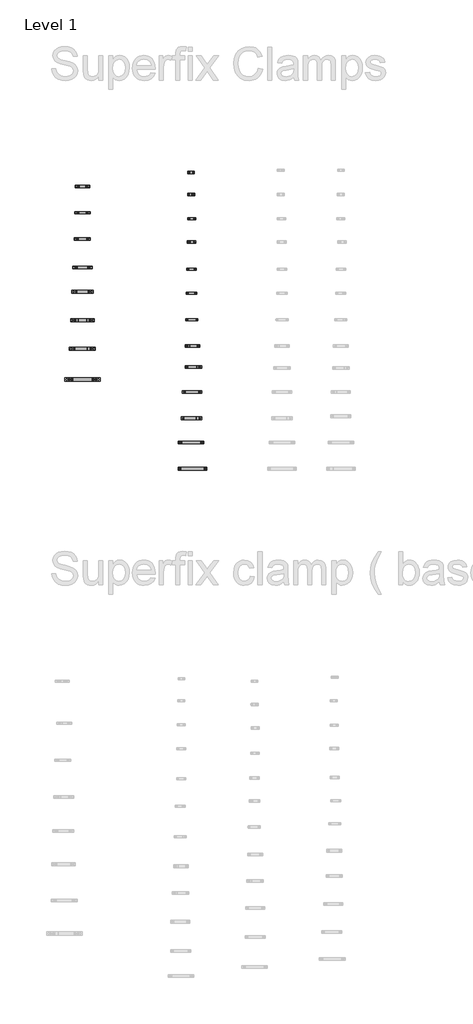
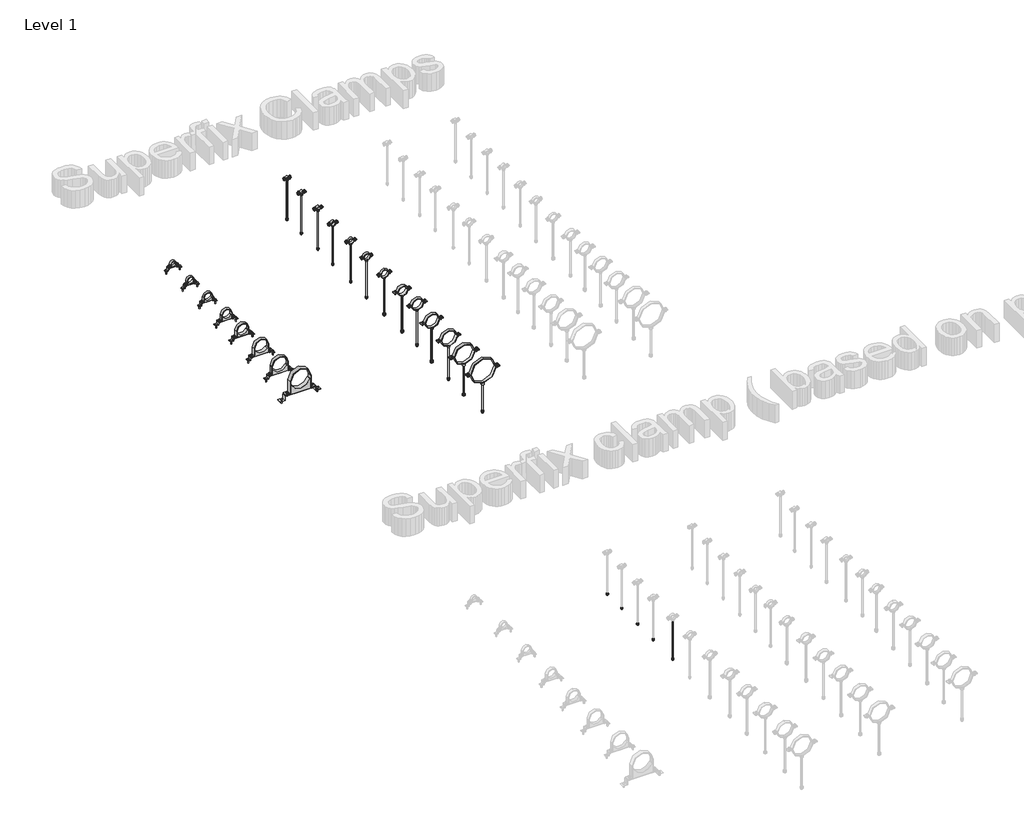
# One storey, part 2 of 32: 138 valves.
"""IFC4 building model written with IfcOpenShell, lengths in millimetres."""

from ifc_helpers import new_model, si_unit, origin, place, context, project, spatial, transform, mapped, element, save
from components import valve_5af5721a, valve_135a96ef, valve_33040f4a, valve_f80b1ea0, valve_0220e836, valve_9a4a9d4f, valve_15f5fd39, valve_c56c90fc, valve_fd664f3f, valve_c1f0a65c, valve_86aa1641, valve_9a7a2dc0, valve_91093ba9, valve_35f80758, valve_2e221add, valve_25c7dca7, valve_0a1c648b, valve_7b720bf2, valve_e633c2be, valve_71e6190d, valve_fd3ecfd8, valve_b4b668c8, valve_6ed2164d, valve_51bf7b5a, valve_dc9e7541, valve_fad8a5b8, valve_cdfc1e77, valve_54fbe6a6, valve_d78be41b, valve_1a68cbfa, valve_9da2c18c, valve_ca0dcec8, valve_44c210af, valve_c34e8304, valve_1d0ad1b5, valve_7fccb85c, valve_1a4baf8e, hexagon_nut_galvanized_extra_m10_fcef541f, hexagon_nut_galvanized_extra_m8_53389388, superfix_hexagon_screw_galvanized_e39b877e

model = new_model("IFC4")

# Units and contexts
model_context = context("Model", 3, world=origin())
ifc_project = project(units=[si_unit("LENGTHUNIT", "METRE", prefix="MILLI")], contexts=[model_context])

# Site, building, storey
site = spatial("IfcSite", under=ifc_project)
building = spatial("IfcBuilding", under=site)
storey = spatial("IfcBuildingStorey", under=building, Name="Level 1", Elevation=0.0)

# Valves
placement = place(None, origin())
valve_shape = valve_5af5721a(model_context)
element("IfcValve", 1, ObjectType="Superfix DG3 Clamp : Superfix DG3 Clamp", at=placement, inside=storey, context=model_context, shape_type="MappedRepresentation", body=[
    mapped(valve_shape, transform((-49487.8245865, 28474.0416433, 0.0), x_axis=(0.0, 1.0, 0.0), y_axis=(-1.0, 0.0, 0.0), z_axis=(0.0, 0.0, 1.0))),
])
valve_2_shape = valve_135a96ef(model_context)
element("IfcValve", 2, ObjectType="Superfix DG3 Clamp : Superfix DG3 Clamp", at=placement, inside=storey, context=model_context, shape_type="MappedRepresentation", body=[
    mapped(valve_2_shape, transform((-49487.8245865, 28234.0416433, 0.0), x_axis=(0.0, 1.0, 0.0), y_axis=(-1.0, 0.0, 0.0), z_axis=(0.0, 0.0, 1.0))),
])
valve_3_shape = valve_33040f4a(model_context)
element("IfcValve", 3, ObjectType="Superfix DG3 Clamp : Superfix DG3 Clamp", at=placement, inside=storey, context=model_context, shape_type="MappedRepresentation", body=[
    mapped(valve_3_shape, transform((-49487.8245865, 27994.0416433, 0.0), x_axis=(0.0, 1.0, 0.0), y_axis=(-1.0, 0.0, 0.0), z_axis=(0.0, 0.0, 1.0))),
])
valve_4_shape = valve_f80b1ea0(model_context)
element("IfcValve", 4, ObjectType="Superfix DG3 Clamp : Superfix DG3 Clamp", at=placement, inside=storey, context=model_context, shape_type="MappedRepresentation", body=[
    mapped(valve_4_shape, transform((-49487.8245865, 27734.0416433, 0.0), x_axis=(0.0, 1.0, 0.0), y_axis=(-1.0, 0.0, 0.0), z_axis=(0.0, 0.0, 1.0))),
])
valve_5_shape = valve_0220e836(model_context)
element("IfcValve", 5, ObjectType="Superfix DG3 Clamp : Superfix DG3 Clamp", at=placement, inside=storey, context=model_context, shape_type="MappedRepresentation", body=[
    mapped(valve_5_shape, transform((-49487.8245865, 27514.0416433, 0.0), x_axis=(0.0, 1.0, 0.0), y_axis=(-1.0, 0.0, 0.0), z_axis=(0.0, 0.0, 1.0))),
])
valve_6_shape = valve_9a4a9d4f(model_context)
element("IfcValve", 6, ObjectType="Superfix DG3 Clamp : Superfix DG3 Clamp", at=placement, inside=storey, context=model_context, shape_type="MappedRepresentation", body=[
    mapped(valve_6_shape, transform((-49487.8245865, 27254.0416433, 0.0), x_axis=(0.0, 1.0, 0.0), y_axis=(-1.0, 0.0, 0.0), z_axis=(0.0, 0.0, 1.0))),
])
valve_7_shape = valve_15f5fd39(model_context)
element("IfcValve", 7, ObjectType="Superfix DG3 Clamp : Superfix DG3 Clamp", at=placement, inside=storey, context=model_context, shape_type="MappedRepresentation", body=[
    mapped(valve_7_shape, transform((-49487.8245865, 26994.0416433, 0.0), x_axis=(0.0, 1.0, 0.0), y_axis=(-1.0, 0.0, 0.0), z_axis=(0.0, 0.0, 1.0))),
])
valve_8_shape = valve_c56c90fc(model_context)
element("IfcValve", 8, ObjectType="Superfix DG3 Clamp : Superfix DG3 Clamp", at=placement, inside=storey, context=model_context, shape_type="MappedRepresentation", body=[
    mapped(valve_8_shape, transform((-49487.8245865, 26714.0416433, 0.0), x_axis=(0.0, 1.0, 0.0), y_axis=(-1.0, 0.0, 0.0), z_axis=(0.0, 0.0, 1.0))),
])
valve_9_shape = valve_fd664f3f(model_context)
element("IfcValve", 9, ObjectType="Superfix DG2 Clamp : Superfix DG2 Clamp", at=placement, inside=storey, context=model_context, shape_type="MappedRepresentation", body=[
    mapped(valve_9_shape, transform((-48498.0930125, 28400.0305157, 0.0), x_axis=(0.0, 1.0, 0.0), y_axis=(-1.0, 0.0, 0.0), z_axis=(0.0, 0.0, 1.0))),
])
valve_10_shape = valve_c1f0a65c(model_context)
element("IfcValve", 10, ObjectType="Superfix DG2 Clamp : Superfix DG2 Clamp", at=placement, inside=storey, context=model_context, shape_type="MappedRepresentation", body=[
    mapped(valve_10_shape, transform((-48493.0930125, 28179.0778121, 0.0), x_axis=(0.0, 1.0, 0.0), y_axis=(-1.0, 0.0, 0.0), z_axis=(0.0, 0.0, 1.0))),
])
valve_11_shape = valve_86aa1641(model_context)
element("IfcValve", 11, ObjectType="Superfix DG2 Clamp : Superfix DG2 Clamp", at=placement, inside=storey, context=model_context, shape_type="MappedRepresentation", body=[
    mapped(valve_11_shape, transform((-48495.5930125, 27967.8831046, 0.0), x_axis=(0.0, 1.0, 0.0), y_axis=(-1.0, 0.0, 0.0), z_axis=(0.0, 0.0, 1.0))),
])
valve_12_shape = valve_9a7a2dc0(model_context)
element("IfcValve", 12, ObjectType="Superfix DG2 Clamp : Superfix DG2 Clamp", at=placement, inside=storey, context=model_context, shape_type="MappedRepresentation", body=[
    mapped(valve_12_shape, transform((-48494.3430125, 27720.0778121, 0.0), x_axis=(0.0, 1.0, 0.0), y_axis=(-1.0, 0.0, 0.0), z_axis=(0.0, 0.0, 1.0))),
])
valve_13_shape = valve_91093ba9(model_context)
element("IfcValve", 13, ObjectType="Superfix DG2 Clamp : Superfix DG2 Clamp", at=placement, inside=storey, context=model_context, shape_type="MappedRepresentation", body=[
    mapped(valve_13_shape, transform((-48494.5930125, 27500.0778121, 0.0), x_axis=(0.0, 1.0, 0.0), y_axis=(-1.0, 0.0, 0.0), z_axis=(0.0, 0.0, 1.0))),
])
valve_14_shape = valve_35f80758(model_context)
element("IfcValve", 14, ObjectType="Superfix DG2 Clamp : Superfix DG2 Clamp", at=placement, inside=storey, context=model_context, shape_type="MappedRepresentation", body=[
    mapped(valve_14_shape, transform((-48490.0930125, 27260.0778121, 0.0), x_axis=(0.0, 1.0, 0.0), y_axis=(-1.0, 0.0, 0.0), z_axis=(0.0, 0.0, 1.0))),
])
valve_15_shape = valve_2e221add(model_context)
element("IfcValve", 15, ObjectType="Superfix Threaded Rod (used for clamps) : Threaded Rod - 1000 mm (used for clamps)", at=placement, inside=storey, context=model_context, shape_type="MappedRepresentation", body=[
    mapped(valve_15_shape, transform((-48490.0930125, 27260.0778121, 0.0), x_axis=(0.0, 0.0, 1.0), y_axis=(1.0, 0.0, 0.0), z_axis=(0.0, 1.0, 0.0))),
])
valve_16_shape = valve_25c7dca7(model_context)
element("IfcValve", 16, ObjectType="Superfix DG2 Clamp : Superfix DG2 Clamp", at=placement, inside=storey, context=model_context, shape_type="MappedRepresentation", body=[
    mapped(valve_16_shape, transform((-48477.5930125, 26827.0288324, 0.0), x_axis=(0.0, 1.0, 0.0), y_axis=(-1.0, 0.0, 0.0), z_axis=(0.0, 0.0, 1.0))),
])
valve_17_shape = valve_0a1c648b(model_context)
element("IfcValve", 17, ObjectType="Superfix Threaded Rod (used for clamps) : Threaded Rod - 1000 mm (used for clamps)", at=placement, inside=storey, context=model_context, shape_type="MappedRepresentation", body=[
    mapped(valve_17_shape, transform((-48477.5930125, 26827.0288324, 0.0), x_axis=(0.0, 0.0, 1.0), y_axis=(1.0, 0.0, 0.0), z_axis=(0.0, 1.0, 0.0))),
])
valve_18_shape = valve_7b720bf2(model_context)
element("IfcValve", 18, ObjectType="Superfix DG2 Clamp : Superfix DG2 Clamp", at=placement, inside=storey, context=model_context, shape_type="MappedRepresentation", body=[
    mapped(valve_18_shape, transform((-48490.0930125, 26600.0778121, 0.0), x_axis=(0.0, 1.0, 0.0), y_axis=(-1.0, 0.0, 0.0), z_axis=(0.0, 0.0, 1.0))),
])
valve_19_shape = valve_e633c2be(model_context)
element("IfcValve", 19, ObjectType="Superfix Threaded Rod (used for clamps) : Threaded Rod - 1000 mm (used for clamps)", at=placement, inside=storey, context=model_context, shape_type="MappedRepresentation", body=[
    mapped(valve_19_shape, transform((-48490.0930125, 26600.0778121, 0.0), x_axis=(0.0, 0.0, 1.0), y_axis=(1.0, 0.0, 0.0), z_axis=(0.0, 1.0, 0.0))),
])
valve_20_shape = valve_71e6190d(model_context)
element("IfcValve", 20, ObjectType="Superfix DG2 Clamp : Superfix DG2 Clamp", at=placement, inside=storey, context=model_context, shape_type="MappedRepresentation", body=[
    mapped(valve_20_shape, transform((-48494.0930125, 26360.0778121, 0.0), x_axis=(0.0, 1.0, 0.0), y_axis=(-1.0, 0.0, 0.0), z_axis=(0.0, 0.0, 1.0))),
])
valve_21_shape = valve_fd3ecfd8(model_context)
element("IfcValve", 21, ObjectType="Superfix DG2 Clamp : Superfix DG2 Clamp", at=placement, inside=storey, context=model_context, shape_type="MappedRepresentation", body=[
    mapped(valve_21_shape, transform((-48498.0930125, 26140.0305157, 0.0), x_axis=(0.0, 1.0, 0.0), y_axis=(-1.0, 0.0, 0.0), z_axis=(0.0, 0.0, 1.0))),
])
valve_22_shape = valve_b4b668c8(model_context)
element("IfcValve", 22, ObjectType="Superfix DG2 Clamp : Superfix DG2 Clamp", at=placement, inside=storey, context=model_context, shape_type="MappedRepresentation", body=[
    mapped(valve_22_shape, transform((-48485.5930125, 25900.0305157, 0.0), x_axis=(0.0, 1.0, 0.0), y_axis=(-1.0, 0.0, 0.0), z_axis=(0.0, 0.0, 1.0))),
])
valve_23_shape = valve_6ed2164d(model_context)
element("IfcValve", 23, ObjectType="Superfix DG2 Clamp : Superfix DG2 Clamp", at=placement, inside=storey, context=model_context, shape_type="MappedRepresentation", body=[
    mapped(valve_23_shape, transform((-48485.0930125, 27020.0778121, 0.0), x_axis=(0.0, 1.0, 0.0), y_axis=(-1.0, 0.0, 0.0), z_axis=(0.0, 0.0, 1.0))),
])
valve_24_shape = valve_51bf7b5a(model_context)
element("IfcValve", 24, ObjectType="Superfix Threaded Rod (used for clamps) : Threaded Rod - 1000 mm (used for clamps)", at=placement, inside=storey, context=model_context, shape_type="MappedRepresentation", body=[
    mapped(valve_24_shape, transform((-48485.0930125, 27020.0778121, 0.0), x_axis=(0.0, 0.0, 1.0), y_axis=(1.0, 0.0, 0.0), z_axis=(0.0, 1.0, 0.0))),
])
valve_25_shape = valve_dc9e7541(model_context)
element("IfcValve", 25, ObjectType="Superfix DG2 Clamp : Superfix DG2 Clamp", at=placement, inside=storey, context=model_context, shape_type="MappedRepresentation", body=[
    mapped(valve_25_shape, transform((-48498.0930125, 28600.0305157, 0.0), x_axis=(0.0, 1.0, 0.0), y_axis=(-1.0, 0.0, 0.0), z_axis=(0.0, 0.0, 1.0))),
])
valve_26_shape = valve_fad8a5b8(model_context)
element("IfcValve", 26, ObjectType="Superfix Flat Washer : Superfix Flat Washer M8x15x1.5", at=placement, inside=storey, context=model_context, shape_type="MappedRepresentation", body=[
    mapped(valve_26_shape, transform((-48498.0930125, 28400.0305157, 3.0), x_axis=(0.0, 1.0, 0.0), y_axis=(-1.0, 0.0, 0.0), z_axis=(0.0, 0.0, 1.0))),
])
element("IfcValve", 27, ObjectType="Superfix Flat Washer : Superfix Flat Washer M8x15x1.5", at=placement, inside=storey, context=model_context, shape_type="MappedRepresentation", body=[
    mapped(valve_26_shape, transform((-48498.0930125, 28400.0305157, -1.6), x_axis=(0.0, 1.0, 0.0), y_axis=(-1.0, 0.0, 0.0), z_axis=(0.0, 0.0, 1.0))),
])
element("IfcValve", 28, ObjectType="Superfix Flat Washer : Superfix Flat Washer M8x15x1.5", at=placement, inside=storey, context=model_context, shape_type="MappedRepresentation", body=[
    mapped(valve_26_shape, transform((-48493.0930125, 28179.0778121, 3.0), x_axis=(0.0, 1.0, 0.0), y_axis=(-1.0, 0.0, 0.0), z_axis=(0.0, 0.0, 1.0))),
])
element("IfcValve", 29, ObjectType="Superfix Flat Washer : Superfix Flat Washer M8x15x1.5", at=placement, inside=storey, context=model_context, shape_type="MappedRepresentation", body=[
    mapped(valve_26_shape, transform((-48493.0930125, 28179.0778121, -1.6), x_axis=(0.0, 1.0, 0.0), y_axis=(-1.0, 0.0, 0.0), z_axis=(0.0, 0.0, 1.0))),
])
element("IfcValve", 30, ObjectType="Superfix Flat Washer : Superfix Flat Washer M8x15x1.5", at=placement, inside=storey, context=model_context, shape_type="MappedRepresentation", body=[
    mapped(valve_26_shape, transform((-48495.5930125, 27967.8831046, 3.0), x_axis=(0.0, 1.0, 0.0), y_axis=(-1.0, 0.0, 0.0), z_axis=(0.0, 0.0, 1.0))),
])
element("IfcValve", 31, ObjectType="Superfix Flat Washer : Superfix Flat Washer M8x15x1.5", at=placement, inside=storey, context=model_context, shape_type="MappedRepresentation", body=[
    mapped(valve_26_shape, transform((-48495.5930125, 27967.8831046, -1.6), x_axis=(0.0, 1.0, 0.0), y_axis=(-1.0, 0.0, 0.0), z_axis=(0.0, 0.0, 1.0))),
])
element("IfcValve", 32, ObjectType="Superfix Flat Washer : Superfix Flat Washer M8x15x1.5", at=placement, inside=storey, context=model_context, shape_type="MappedRepresentation", body=[
    mapped(valve_26_shape, transform((-48494.3430125, 27720.0778121, 3.0), x_axis=(0.0, 1.0, 0.0), y_axis=(-1.0, 0.0, 0.0), z_axis=(0.0, 0.0, 1.0))),
])
element("IfcValve", 33, ObjectType="Superfix Flat Washer : Superfix Flat Washer M8x15x1.5", at=placement, inside=storey, context=model_context, shape_type="MappedRepresentation", body=[
    mapped(valve_26_shape, transform((-48494.3430125, 27720.0778121, -1.6), x_axis=(0.0, 1.0, 0.0), y_axis=(-1.0, 0.0, 0.0), z_axis=(0.0, 0.0, 1.0))),
])
element("IfcValve", 34, ObjectType="Superfix Flat Washer : Superfix Flat Washer M8x15x1.5", at=placement, inside=storey, context=model_context, shape_type="MappedRepresentation", body=[
    mapped(valve_26_shape, transform((-48494.5930125, 27500.0778121, 3.0), x_axis=(0.0, 1.0, 0.0), y_axis=(-1.0, 0.0, 0.0), z_axis=(0.0, 0.0, 1.0))),
])
element("IfcValve", 35, ObjectType="Superfix Flat Washer : Superfix Flat Washer M8x15x1.5", at=placement, inside=storey, context=model_context, shape_type="MappedRepresentation", body=[
    mapped(valve_26_shape, transform((-48494.5930125, 27500.0778121, -1.6), x_axis=(0.0, 1.0, 0.0), y_axis=(-1.0, 0.0, 0.0), z_axis=(0.0, 0.0, 1.0))),
])
element("IfcValve", 36, ObjectType="Superfix Flat Washer : Superfix Flat Washer M8x15x1.5", at=placement, inside=storey, context=model_context, shape_type="MappedRepresentation", body=[
    mapped(valve_26_shape, transform((-48586.8637553, 23986.908282, -360.1002332), x_axis=(0.0, -1.0, 0.0), y_axis=(1.0, 0.0, 0.0), z_axis=(0.0, 0.0, 1.0))),
])
element("IfcValve", 37, ObjectType="Superfix Flat Washer : Superfix Flat Washer M8x15x1.5", at=placement, inside=storey, context=model_context, shape_type="MappedRepresentation", body=[
    mapped(valve_26_shape, transform((-48586.8637553, 23986.908282, -355.5002332), x_axis=(0.0, -1.0, 0.0), y_axis=(1.0, 0.0, 0.0), z_axis=(0.0, 0.0, 1.0))),
])
element("IfcValve", 38, ObjectType="Superfix Flat Washer : Superfix Flat Washer M8x15x1.5", at=placement, inside=storey, context=model_context, shape_type="MappedRepresentation", body=[
    mapped(valve_26_shape, transform((-48586.8637553, 23786.908282, -360.1002332), x_axis=(0.0, -1.0, 0.0), y_axis=(1.0, 0.0, 0.0), z_axis=(0.0, 0.0, 1.0))),
])
element("IfcValve", 39, ObjectType="Superfix Flat Washer : Superfix Flat Washer M8x15x1.5", at=placement, inside=storey, context=model_context, shape_type="MappedRepresentation", body=[
    mapped(valve_26_shape, transform((-48586.8637553, 23786.908282, -355.5002332), x_axis=(0.0, -1.0, 0.0), y_axis=(1.0, 0.0, 0.0), z_axis=(0.0, 0.0, 1.0))),
])
element("IfcValve", 40, ObjectType="Superfix Flat Washer : Superfix Flat Washer M8x15x1.5", at=placement, inside=storey, context=model_context, shape_type="MappedRepresentation", body=[
    mapped(valve_26_shape, transform((-48586.8637553, 23566.908282, -360.1002332), x_axis=(0.0, -1.0, 0.0), y_axis=(1.0, 0.0, 0.0), z_axis=(0.0, 0.0, 1.0))),
])
element("IfcValve", 41, ObjectType="Superfix Flat Washer : Superfix Flat Washer M8x15x1.5", at=placement, inside=storey, context=model_context, shape_type="MappedRepresentation", body=[
    mapped(valve_26_shape, transform((-48586.8637553, 23566.908282, -355.5002332), x_axis=(0.0, -1.0, 0.0), y_axis=(1.0, 0.0, 0.0), z_axis=(0.0, 0.0, 1.0))),
])
element("IfcValve", 42, ObjectType="Superfix Flat Washer : Superfix Flat Washer M8x15x1.5", at=placement, inside=storey, context=model_context, shape_type="MappedRepresentation", body=[
    mapped(valve_26_shape, transform((-48587.8479527, 23347.730189, -360.1002332), x_axis=(0.0, -1.0, 0.0), y_axis=(1.0, 0.0, 0.0), z_axis=(0.0, 0.0, 1.0))),
])
element("IfcValve", 43, ObjectType="Superfix Flat Washer : Superfix Flat Washer M8x15x1.5", at=placement, inside=storey, context=model_context, shape_type="MappedRepresentation", body=[
    mapped(valve_26_shape, transform((-48587.8479527, 23347.730189, -355.5002332), x_axis=(0.0, -1.0, 0.0), y_axis=(1.0, 0.0, 0.0), z_axis=(0.0, 0.0, 1.0))),
])
element("IfcValve", 44, ObjectType="Superfix Flat Washer : Superfix Flat Washer M8x15x1.5", at=placement, inside=storey, context=model_context, shape_type="MappedRepresentation", body=[
    mapped(valve_26_shape, transform((-48587.8479527, 23076.5844736, -360.1002332), x_axis=(0.0, -1.0, 0.0), y_axis=(1.0, 0.0, 0.0), z_axis=(0.0, 0.0, 1.0))),
])
element("IfcValve", 45, ObjectType="Superfix Flat Washer : Superfix Flat Washer M8x15x1.5", at=placement, inside=storey, context=model_context, shape_type="MappedRepresentation", body=[
    mapped(valve_26_shape, transform((-48587.8479527, 23076.5844736, -355.5002332), x_axis=(0.0, -1.0, 0.0), y_axis=(1.0, 0.0, 0.0), z_axis=(0.0, 0.0, 1.0))),
])
element("IfcValve", 46, ObjectType="Superfix Flat Washer : Superfix Flat Washer M8x15x1.5", at=placement, inside=storey, context=model_context, shape_type="MappedRepresentation", body=[
    mapped(valve_26_shape, transform((-48498.0930125, 28600.0305157, 3.0), x_axis=(0.0, 1.0, 0.0), y_axis=(-1.0, 0.0, 0.0), z_axis=(0.0, 0.0, 1.0))),
])
valve_27_shape = valve_cdfc1e77(model_context)
element("IfcValve", 47, ObjectType="Superfix Flat Washer : Superfix Flat Washer M10x20x1.5", at=placement, inside=storey, context=model_context, shape_type="MappedRepresentation", body=[
    mapped(valve_27_shape, transform((-48490.0930125, 27260.0778121, 3.0), x_axis=(0.0, 1.0, 0.0), y_axis=(-1.0, 0.0, 0.0), z_axis=(0.0, 0.0, 1.0))),
])
element("IfcValve", 48, ObjectType="Superfix Flat Washer : Superfix Flat Washer M10x20x1.5", at=placement, inside=storey, context=model_context, shape_type="MappedRepresentation", body=[
    mapped(valve_27_shape, transform((-48490.0930125, 27260.0778121, -2.0), x_axis=(0.0, 1.0, 0.0), y_axis=(-1.0, 0.0, 0.0), z_axis=(0.0, 0.0, 1.0))),
])
element("IfcValve", 49, ObjectType="Superfix Flat Washer : Superfix Flat Washer M10x20x1.5", at=placement, inside=storey, context=model_context, shape_type="MappedRepresentation", body=[
    mapped(valve_27_shape, transform((-48477.5930125, 26827.0288324, 3.0), x_axis=(0.0, 1.0, 0.0), y_axis=(-1.0, 0.0, 0.0), z_axis=(0.0, 0.0, 1.0))),
])
element("IfcValve", 50, ObjectType="Superfix Flat Washer : Superfix Flat Washer M10x20x1.5", at=placement, inside=storey, context=model_context, shape_type="MappedRepresentation", body=[
    mapped(valve_27_shape, transform((-48477.5930125, 26827.0288324, -2.0), x_axis=(0.0, 1.0, 0.0), y_axis=(-1.0, 0.0, 0.0), z_axis=(0.0, 0.0, 1.0))),
])
element("IfcValve", 51, ObjectType="Superfix Flat Washer : Superfix Flat Washer M10x20x1.5", at=placement, inside=storey, context=model_context, shape_type="MappedRepresentation", body=[
    mapped(valve_27_shape, transform((-48490.0930125, 26600.0778121, 3.0), x_axis=(0.0, 1.0, 0.0), y_axis=(-1.0, 0.0, 0.0), z_axis=(0.0, 0.0, 1.0))),
])
element("IfcValve", 52, ObjectType="Superfix Flat Washer : Superfix Flat Washer M10x20x1.5", at=placement, inside=storey, context=model_context, shape_type="MappedRepresentation", body=[
    mapped(valve_27_shape, transform((-48490.0930125, 26600.0778121, -2.0), x_axis=(0.0, 1.0, 0.0), y_axis=(-1.0, 0.0, 0.0), z_axis=(0.0, 0.0, 1.0))),
])
element("IfcValve", 53, ObjectType="Superfix Flat Washer : Superfix Flat Washer M10x20x1.5", at=placement, inside=storey, context=model_context, shape_type="MappedRepresentation", body=[
    mapped(valve_27_shape, transform((-48494.0930125, 26360.0778121, 3.0), x_axis=(0.0, 1.0, 0.0), y_axis=(-1.0, 0.0, 0.0), z_axis=(0.0, 0.0, 1.0))),
])
element("IfcValve", 54, ObjectType="Superfix Flat Washer : Superfix Flat Washer M10x20x1.5", at=placement, inside=storey, context=model_context, shape_type="MappedRepresentation", body=[
    mapped(valve_27_shape, transform((-48494.0930125, 26360.0778121, -2.0), x_axis=(0.0, 1.0, 0.0), y_axis=(-1.0, 0.0, 0.0), z_axis=(0.0, 0.0, 1.0))),
])
element("IfcValve", 55, ObjectType="Superfix Flat Washer : Superfix Flat Washer M10x20x1.5", at=placement, inside=storey, context=model_context, shape_type="MappedRepresentation", body=[
    mapped(valve_27_shape, transform((-48498.0930125, 26140.0305157, 3.0), x_axis=(0.0, 1.0, 0.0), y_axis=(-1.0, 0.0, 0.0), z_axis=(0.0, 0.0, 1.0))),
])
element("IfcValve", 56, ObjectType="Superfix Flat Washer : Superfix Flat Washer M10x20x1.5", at=placement, inside=storey, context=model_context, shape_type="MappedRepresentation", body=[
    mapped(valve_27_shape, transform((-48498.0930125, 26140.0305157, -2.0), x_axis=(0.0, 1.0, 0.0), y_axis=(-1.0, 0.0, 0.0), z_axis=(0.0, 0.0, 1.0))),
])
element("IfcValve", 57, ObjectType="Superfix Flat Washer : Superfix Flat Washer M10x20x1.5", at=placement, inside=storey, context=model_context, shape_type="MappedRepresentation", body=[
    mapped(valve_27_shape, transform((-48485.5930125, 25900.0305157, 3.0), x_axis=(0.0, 1.0, 0.0), y_axis=(-1.0, 0.0, 0.0), z_axis=(0.0, 0.0, 1.0))),
])
element("IfcValve", 58, ObjectType="Superfix Flat Washer : Superfix Flat Washer M10x20x1.5", at=placement, inside=storey, context=model_context, shape_type="MappedRepresentation", body=[
    mapped(valve_27_shape, transform((-48485.5930125, 25900.0305157, -2.0), x_axis=(0.0, 1.0, 0.0), y_axis=(-1.0, 0.0, 0.0), z_axis=(0.0, 0.0, 1.0))),
])
element("IfcValve", 59, ObjectType="Superfix Flat Washer : Superfix Flat Washer M10x20x1.5", at=placement, inside=storey, context=model_context, shape_type="MappedRepresentation", body=[
    mapped(valve_27_shape, transform((-48485.0930125, 27020.0778121, 3.0), x_axis=(0.0, 1.0, 0.0), y_axis=(-1.0, 0.0, 0.0), z_axis=(0.0, 0.0, 1.0))),
])
element("IfcValve", 60, ObjectType="Superfix Flat Washer : Superfix Flat Washer M10x20x1.5", at=placement, inside=storey, context=model_context, shape_type="MappedRepresentation", body=[
    mapped(valve_27_shape, transform((-48485.0930125, 27020.0778121, -2.0), x_axis=(0.0, 1.0, 0.0), y_axis=(-1.0, 0.0, 0.0), z_axis=(0.0, 0.0, 1.0))),
])
valve_28_shape = valve_54fbe6a6(model_context)
element("IfcValve", 61, ObjectType="Superfix Threaded Rod (used for clamps) : Threaded Rod - 1000 mm (used for clamps)", at=placement, inside=storey, context=model_context, shape_type="MappedRepresentation", body=[
    mapped(valve_28_shape, transform((-48498.0930125, 28600.0305157, 0.0), x_axis=(0.0, 0.0, 1.0), y_axis=(1.0, 0.0, 0.0), z_axis=(0.0, 1.0, 0.0))),
])
valve_29_shape = valve_d78be41b(model_context)
element("IfcValve", 62, ObjectType="Superfix Threaded Rod (used for clamps) : Threaded Rod - 1000 mm (used for clamps)", at=placement, inside=storey, context=model_context, shape_type="MappedRepresentation", body=[
    mapped(valve_29_shape, transform((-48498.0930125, 28400.0305157, 0.0), x_axis=(0.0, 0.0, 1.0), y_axis=(1.0, 0.0, 0.0), z_axis=(0.0, 1.0, 0.0))),
])
valve_30_shape = valve_1a68cbfa(model_context)
element("IfcValve", 63, ObjectType="Superfix Threaded Rod (used for clamps) : Threaded Rod - 1000 mm (used for clamps)", at=placement, inside=storey, context=model_context, shape_type="MappedRepresentation", body=[
    mapped(valve_30_shape, transform((-48493.0930125, 28179.0778121, 0.0), x_axis=(0.0, 0.0, 1.0), y_axis=(1.0, 0.0, 0.0), z_axis=(0.0, 1.0, 0.0))),
])
valve_31_shape = valve_9da2c18c(model_context)
element("IfcValve", 64, ObjectType="Superfix Threaded Rod (used for clamps) : Threaded Rod - 1000 mm (used for clamps)", at=placement, inside=storey, context=model_context, shape_type="MappedRepresentation", body=[
    mapped(valve_31_shape, transform((-48495.5930125, 27967.8831046, 0.0), x_axis=(0.0, 0.0, 1.0), y_axis=(1.0, 0.0, 0.0), z_axis=(0.0, 1.0, 0.0))),
])
valve_32_shape = valve_ca0dcec8(model_context)
element("IfcValve", 65, ObjectType="Superfix Threaded Rod (used for clamps) : Threaded Rod - 1000 mm (used for clamps)", at=placement, inside=storey, context=model_context, shape_type="MappedRepresentation", body=[
    mapped(valve_32_shape, transform((-48494.3430125, 27720.0778121, 0.0), x_axis=(0.0, 0.0, 1.0), y_axis=(1.0, 0.0, 0.0), z_axis=(0.0, 1.0, 0.0))),
])
valve_33_shape = valve_44c210af(model_context)
element("IfcValve", 66, ObjectType="Superfix Threaded Rod (used for clamps) : Threaded Rod - 1000 mm (used for clamps)", at=placement, inside=storey, context=model_context, shape_type="MappedRepresentation", body=[
    mapped(valve_33_shape, transform((-48494.5930125, 27500.0778121, 0.0), x_axis=(0.0, 0.0, 1.0), y_axis=(1.0, 0.0, 0.0), z_axis=(0.0, 1.0, 0.0))),
])
valve_34_shape = valve_c34e8304(model_context)
element("IfcValve", 67, ObjectType="Superfix Threaded Rod (used for clamps) : Threaded Rod - 1000 mm (used for clamps)", at=placement, inside=storey, context=model_context, shape_type="MappedRepresentation", body=[
    mapped(valve_34_shape, transform((-48494.0930125, 26360.0778121, 0.0), x_axis=(0.0, 0.0, 1.0), y_axis=(1.0, 0.0, 0.0), z_axis=(0.0, 1.0, 0.0))),
])
valve_35_shape = valve_1d0ad1b5(model_context)
element("IfcValve", 68, ObjectType="Superfix Threaded Rod (used for clamps) : Threaded Rod - 1000 mm (used for clamps)", at=placement, inside=storey, context=model_context, shape_type="MappedRepresentation", body=[
    mapped(valve_35_shape, transform((-48498.0930125, 26140.0305157, 0.0), x_axis=(0.0, 0.0, 1.0), y_axis=(1.0, 0.0, 0.0), z_axis=(0.0, 1.0, 0.0))),
])
valve_36_shape = valve_7fccb85c(model_context)
element("IfcValve", 69, ObjectType="Superfix Threaded Rod (used for clamps) : Threaded Rod - 1000 mm (used for clamps)", at=placement, inside=storey, context=model_context, shape_type="MappedRepresentation", body=[
    mapped(valve_36_shape, transform((-48485.5930125, 25900.0305157, 0.0), x_axis=(0.0, 0.0, 1.0), y_axis=(1.0, 0.0, 0.0), z_axis=(0.0, 1.0, 0.0))),
])
valve_37_shape = valve_1a4baf8e(model_context)
element("IfcValve", 70, ObjectType="Superfix Threaded Rod (used for clamps) : Threaded Rod - 1000 mm (used for clamps)", at=placement, inside=storey, context=model_context, shape_type="MappedRepresentation", body=[
    mapped(valve_37_shape, transform((-48587.8479527, 23076.5844736, -358.5002332), x_axis=(0.0, 0.0, 1.0), y_axis=(-1.0, 0.0, 0.0), z_axis=(0.0, -1.0, 0.0))),
])
hexagon_nut_galvanized_extra_m10_shape = hexagon_nut_galvanized_extra_m10_fcef541f(model_context)
element("IfcValve", 71, ObjectType="Superfix Hexagon Nut Galvanized : Hexagon Nut Galvanized M10", at=placement, inside=storey, context=model_context, shape_type="MappedRepresentation", body=[
    mapped(hexagon_nut_galvanized_extra_m10_shape, transform((-48490.0930125, 27260.0778121, 3.0), x_axis=(0.0, 1.0, 0.0), y_axis=(-1.0, 0.0, 0.0), z_axis=(0.0, 0.0, 1.0))),
])
element("IfcValve", 72, ObjectType="Superfix Hexagon Nut Galvanized : Hexagon Nut Galvanized M10", at=placement, inside=storey, context=model_context, shape_type="MappedRepresentation", body=[
    mapped(hexagon_nut_galvanized_extra_m10_shape, transform((-48490.0930125, 27260.0778121, -8.0), x_axis=(0.0, 1.0, 0.0), y_axis=(-1.0, 0.0, 0.0), z_axis=(0.0, 0.0, 1.0))),
])
element("IfcValve", 73, ObjectType="Superfix Hexagon Nut Galvanized : Hexagon Nut Galvanized M10", at=placement, inside=storey, context=model_context, shape_type="MappedRepresentation", body=[
    mapped(hexagon_nut_galvanized_extra_m10_shape, transform((-48477.5930125, 26827.0288324, 3.0), x_axis=(0.0, 1.0, 0.0), y_axis=(-1.0, 0.0, 0.0), z_axis=(0.0, 0.0, 1.0))),
])
element("IfcValve", 74, ObjectType="Superfix Hexagon Nut Galvanized : Hexagon Nut Galvanized M10", at=placement, inside=storey, context=model_context, shape_type="MappedRepresentation", body=[
    mapped(hexagon_nut_galvanized_extra_m10_shape, transform((-48477.5930125, 26827.0288324, -8.0), x_axis=(0.0, 1.0, 0.0), y_axis=(-1.0, 0.0, 0.0), z_axis=(0.0, 0.0, 1.0))),
])
element("IfcValve", 75, ObjectType="Superfix Hexagon Nut Galvanized : Hexagon Nut Galvanized M10", at=placement, inside=storey, context=model_context, shape_type="MappedRepresentation", body=[
    mapped(hexagon_nut_galvanized_extra_m10_shape, transform((-48490.0930125, 26600.0778121, 3.0), x_axis=(0.0, 1.0, 0.0), y_axis=(-1.0, 0.0, 0.0), z_axis=(0.0, 0.0, 1.0))),
])
element("IfcValve", 76, ObjectType="Superfix Hexagon Nut Galvanized : Hexagon Nut Galvanized M10", at=placement, inside=storey, context=model_context, shape_type="MappedRepresentation", body=[
    mapped(hexagon_nut_galvanized_extra_m10_shape, transform((-48490.0930125, 26600.0778121, -8.0), x_axis=(0.0, 1.0, 0.0), y_axis=(-1.0, 0.0, 0.0), z_axis=(0.0, 0.0, 1.0))),
])
element("IfcValve", 77, ObjectType="Superfix Hexagon Nut Galvanized : Hexagon Nut Galvanized M10", at=placement, inside=storey, context=model_context, shape_type="MappedRepresentation", body=[
    mapped(hexagon_nut_galvanized_extra_m10_shape, transform((-48494.0930125, 26360.0778121, 3.0), x_axis=(0.0, 1.0, 0.0), y_axis=(-1.0, 0.0, 0.0), z_axis=(0.0, 0.0, 1.0))),
])
element("IfcValve", 78, ObjectType="Superfix Hexagon Nut Galvanized : Hexagon Nut Galvanized M10", at=placement, inside=storey, context=model_context, shape_type="MappedRepresentation", body=[
    mapped(hexagon_nut_galvanized_extra_m10_shape, transform((-48494.0930125, 26360.0778121, -8.0), x_axis=(0.0, 1.0, 0.0), y_axis=(-1.0, 0.0, 0.0), z_axis=(0.0, 0.0, 1.0))),
])
element("IfcValve", 79, ObjectType="Superfix Hexagon Nut Galvanized : Hexagon Nut Galvanized M10", at=placement, inside=storey, context=model_context, shape_type="MappedRepresentation", body=[
    mapped(hexagon_nut_galvanized_extra_m10_shape, transform((-48498.0930125, 26140.0305157, 3.0), x_axis=(0.0, 1.0, 0.0), y_axis=(-1.0, 0.0, 0.0), z_axis=(0.0, 0.0, 1.0))),
])
element("IfcValve", 80, ObjectType="Superfix Hexagon Nut Galvanized : Hexagon Nut Galvanized M10", at=placement, inside=storey, context=model_context, shape_type="MappedRepresentation", body=[
    mapped(hexagon_nut_galvanized_extra_m10_shape, transform((-48498.0930125, 26140.0305157, -8.0), x_axis=(0.0, 1.0, 0.0), y_axis=(-1.0, 0.0, 0.0), z_axis=(0.0, 0.0, 1.0))),
])
element("IfcValve", 81, ObjectType="Superfix Hexagon Nut Galvanized : Hexagon Nut Galvanized M10", at=placement, inside=storey, context=model_context, shape_type="MappedRepresentation", body=[
    mapped(hexagon_nut_galvanized_extra_m10_shape, transform((-48485.5930125, 25900.0305157, 3.0), x_axis=(0.0, 1.0, 0.0), y_axis=(-1.0, 0.0, 0.0), z_axis=(0.0, 0.0, 1.0))),
])
element("IfcValve", 82, ObjectType="Superfix Hexagon Nut Galvanized : Hexagon Nut Galvanized M10", at=placement, inside=storey, context=model_context, shape_type="MappedRepresentation", body=[
    mapped(hexagon_nut_galvanized_extra_m10_shape, transform((-48485.5930125, 25900.0305157, -8.0), x_axis=(0.0, 1.0, 0.0), y_axis=(-1.0, 0.0, 0.0), z_axis=(0.0, 0.0, 1.0))),
])
element("IfcValve", 83, ObjectType="Superfix Hexagon Nut Galvanized : Hexagon Nut Galvanized M10", at=placement, inside=storey, context=model_context, shape_type="MappedRepresentation", body=[
    mapped(hexagon_nut_galvanized_extra_m10_shape, transform((-48485.0930125, 27020.0778121, 3.0), x_axis=(0.0, 1.0, 0.0), y_axis=(-1.0, 0.0, 0.0), z_axis=(0.0, 0.0, 1.0))),
])
element("IfcValve", 84, ObjectType="Superfix Hexagon Nut Galvanized : Hexagon Nut Galvanized M10", at=placement, inside=storey, context=model_context, shape_type="MappedRepresentation", body=[
    mapped(hexagon_nut_galvanized_extra_m10_shape, transform((-48485.0930125, 27020.0778121, -8.0), x_axis=(0.0, 1.0, 0.0), y_axis=(-1.0, 0.0, 0.0), z_axis=(0.0, 0.0, 1.0))),
])
hexagon_nut_galvanized_extra_m8_shape = hexagon_nut_galvanized_extra_m8_53389388(model_context)
element("IfcValve", 85, ObjectType="Superfix Hexagon Nut Galvanized : Hexagon Nut Galvanized M8", at=placement, inside=storey, context=model_context, shape_type="MappedRepresentation", body=[
    mapped(hexagon_nut_galvanized_extra_m8_shape, transform((-49433.3245865, 28474.0416433, 0.0), x_axis=(0.0, 1.0, 0.0), y_axis=(1.0, 0.0, 0.0), z_axis=(0.0, 0.0, -1.0))),
])
element("IfcValve", 86, ObjectType="Superfix Hexagon Nut Galvanized : Hexagon Nut Galvanized M8", at=placement, inside=storey, context=model_context, shape_type="MappedRepresentation", body=[
    mapped(hexagon_nut_galvanized_extra_m8_shape, transform((-49542.3245865, 28474.0416433, 0.0), x_axis=(0.0, 1.0, 0.0), y_axis=(1.0, 0.0, 0.0), z_axis=(0.0, 0.0, -1.0))),
])
element("IfcValve", 87, ObjectType="Superfix Hexagon Nut Galvanized : Hexagon Nut Galvanized M8", at=placement, inside=storey, context=model_context, shape_type="MappedRepresentation", body=[
    mapped(hexagon_nut_galvanized_extra_m8_shape, transform((-49429.3245865, 28234.0416433, 0.0), x_axis=(0.0, 1.0, 0.0), y_axis=(1.0, 0.0, 0.0), z_axis=(0.0, 0.0, -1.0))),
])
element("IfcValve", 88, ObjectType="Superfix Hexagon Nut Galvanized : Hexagon Nut Galvanized M8", at=placement, inside=storey, context=model_context, shape_type="MappedRepresentation", body=[
    mapped(hexagon_nut_galvanized_extra_m8_shape, transform((-49546.3245865, 28234.0416433, 0.0), x_axis=(0.0, 1.0, 0.0), y_axis=(1.0, 0.0, 0.0), z_axis=(0.0, 0.0, -1.0))),
])
element("IfcValve", 89, ObjectType="Superfix Hexagon Nut Galvanized : Hexagon Nut Galvanized M8", at=placement, inside=storey, context=model_context, shape_type="MappedRepresentation", body=[
    mapped(hexagon_nut_galvanized_extra_m8_shape, transform((-49424.0745865, 27994.0416433, 0.0), x_axis=(0.0, 1.0, 0.0), y_axis=(1.0, 0.0, 0.0), z_axis=(0.0, 0.0, -1.0))),
])
element("IfcValve", 90, ObjectType="Superfix Hexagon Nut Galvanized : Hexagon Nut Galvanized M8", at=placement, inside=storey, context=model_context, shape_type="MappedRepresentation", body=[
    mapped(hexagon_nut_galvanized_extra_m8_shape, transform((-49551.5745865, 27994.0416433, 0.0), x_axis=(0.0, 1.0, 0.0), y_axis=(1.0, 0.0, 0.0), z_axis=(0.0, 0.0, -1.0))),
])
element("IfcValve", 91, ObjectType="Superfix Hexagon Nut Galvanized : Hexagon Nut Galvanized M8", at=placement, inside=storey, context=model_context, shape_type="MappedRepresentation", body=[
    mapped(hexagon_nut_galvanized_extra_m8_shape, transform((-49408.5745865, 27734.0416433, 0.0), x_axis=(0.0, 1.0, 0.0), y_axis=(1.0, 0.0, 0.0), z_axis=(0.0, 0.0, -1.0))),
])
element("IfcValve", 92, ObjectType="Superfix Hexagon Nut Galvanized : Hexagon Nut Galvanized M8", at=placement, inside=storey, context=model_context, shape_type="MappedRepresentation", body=[
    mapped(hexagon_nut_galvanized_extra_m8_shape, transform((-49567.0745865, 27734.0416433, 0.0), x_axis=(0.0, 1.0, 0.0), y_axis=(1.0, 0.0, 0.0), z_axis=(0.0, 0.0, -1.0))),
])
element("IfcValve", 93, ObjectType="Superfix Hexagon Nut Galvanized : Hexagon Nut Galvanized M8", at=placement, inside=storey, context=model_context, shape_type="MappedRepresentation", body=[
    mapped(hexagon_nut_galvanized_extra_m8_shape, transform((-49402.0745865, 27514.0416433, 0.0), x_axis=(0.0, 1.0, 0.0), y_axis=(1.0, 0.0, 0.0), z_axis=(0.0, 0.0, -1.0))),
])
element("IfcValve", 94, ObjectType="Superfix Hexagon Nut Galvanized : Hexagon Nut Galvanized M8", at=placement, inside=storey, context=model_context, shape_type="MappedRepresentation", body=[
    mapped(hexagon_nut_galvanized_extra_m8_shape, transform((-49573.5745865, 27514.0416433, 0.0), x_axis=(0.0, 1.0, 0.0), y_axis=(1.0, 0.0, 0.0), z_axis=(0.0, 0.0, -1.0))),
])
element("IfcValve", 95, ObjectType="Superfix Hexagon Nut Galvanized : Hexagon Nut Galvanized M8", at=placement, inside=storey, context=model_context, shape_type="MappedRepresentation", body=[
    mapped(hexagon_nut_galvanized_extra_m8_shape, transform((-49389.8245865, 27254.0416433, 0.0), x_axis=(0.0, 1.0, 0.0), y_axis=(1.0, 0.0, 0.0), z_axis=(0.0, 0.0, -1.0))),
])
element("IfcValve", 96, ObjectType="Superfix Hexagon Nut Galvanized : Hexagon Nut Galvanized M8", at=placement, inside=storey, context=model_context, shape_type="MappedRepresentation", body=[
    mapped(hexagon_nut_galvanized_extra_m8_shape, transform((-49585.8245865, 27254.0416433, 0.0), x_axis=(0.0, 1.0, 0.0), y_axis=(1.0, 0.0, 0.0), z_axis=(0.0, 0.0, -1.0))),
])
element("IfcValve", 97, ObjectType="Superfix Hexagon Nut Galvanized : Hexagon Nut Galvanized M8", at=placement, inside=storey, context=model_context, shape_type="MappedRepresentation", body=[
    mapped(hexagon_nut_galvanized_extra_m8_shape, transform((-49382.0745865, 26994.0416433, 0.0), x_axis=(0.0, 1.0, 0.0), y_axis=(1.0, 0.0, 0.0), z_axis=(0.0, 0.0, -1.0))),
])
element("IfcValve", 98, ObjectType="Superfix Hexagon Nut Galvanized : Hexagon Nut Galvanized M8", at=placement, inside=storey, context=model_context, shape_type="MappedRepresentation", body=[
    mapped(hexagon_nut_galvanized_extra_m8_shape, transform((-49593.5745865, 26994.0416433, 0.0), x_axis=(0.0, 1.0, 0.0), y_axis=(1.0, 0.0, 0.0), z_axis=(0.0, 0.0, -1.0))),
])
element("IfcValve", 99, ObjectType="Superfix Hexagon Nut Galvanized : Hexagon Nut Galvanized M8", at=placement, inside=storey, context=model_context, shape_type="MappedRepresentation", body=[
    mapped(hexagon_nut_galvanized_extra_m8_shape, transform((-49344.0745865, 26714.0416433, 0.0), x_axis=(0.0, 1.0, 0.0), y_axis=(1.0, 0.0, 0.0), z_axis=(0.0, 0.0, -1.0))),
])
element("IfcValve", 100, ObjectType="Superfix Hexagon Nut Galvanized : Hexagon Nut Galvanized M8", at=placement, inside=storey, context=model_context, shape_type="MappedRepresentation", body=[
    mapped(hexagon_nut_galvanized_extra_m8_shape, transform((-49631.5745865, 26714.0416433, 0.0), x_axis=(0.0, 1.0, 0.0), y_axis=(1.0, 0.0, 0.0), z_axis=(0.0, 0.0, -1.0))),
])
element("IfcValve", 101, ObjectType="Superfix Hexagon Nut Galvanized : Hexagon Nut Galvanized M8", at=placement, inside=storey, context=model_context, shape_type="MappedRepresentation", body=[
    mapped(hexagon_nut_galvanized_extra_m8_shape, transform((-48498.0930125, 28400.0305157, 3.0), x_axis=(0.0, 1.0, 0.0), y_axis=(-1.0, 0.0, 0.0), z_axis=(0.0, 0.0, 1.0))),
])
element("IfcValve", 102, ObjectType="Superfix Hexagon Nut Galvanized : Hexagon Nut Galvanized M8", at=placement, inside=storey, context=model_context, shape_type="MappedRepresentation", body=[
    mapped(hexagon_nut_galvanized_extra_m8_shape, transform((-48498.0930125, 28400.0305157, -6.5), x_axis=(0.0, 1.0, 0.0), y_axis=(-1.0, 0.0, 0.0), z_axis=(0.0, 0.0, 1.0))),
])
element("IfcValve", 103, ObjectType="Superfix Hexagon Nut Galvanized : Hexagon Nut Galvanized M8", at=placement, inside=storey, context=model_context, shape_type="MappedRepresentation", body=[
    mapped(hexagon_nut_galvanized_extra_m8_shape, transform((-48493.0930125, 28179.0778121, 3.0), x_axis=(0.0, 1.0, 0.0), y_axis=(-1.0, 0.0, 0.0), z_axis=(0.0, 0.0, 1.0))),
])
element("IfcValve", 104, ObjectType="Superfix Hexagon Nut Galvanized : Hexagon Nut Galvanized M8", at=placement, inside=storey, context=model_context, shape_type="MappedRepresentation", body=[
    mapped(hexagon_nut_galvanized_extra_m8_shape, transform((-48493.0930125, 28179.0778121, -6.5), x_axis=(0.0, 1.0, 0.0), y_axis=(-1.0, 0.0, 0.0), z_axis=(0.0, 0.0, 1.0))),
])
element("IfcValve", 105, ObjectType="Superfix Hexagon Nut Galvanized : Hexagon Nut Galvanized M8", at=placement, inside=storey, context=model_context, shape_type="MappedRepresentation", body=[
    mapped(hexagon_nut_galvanized_extra_m8_shape, transform((-48495.5930125, 27967.8831046, 3.0), x_axis=(0.0, 1.0, 0.0), y_axis=(-1.0, 0.0, 0.0), z_axis=(0.0, 0.0, 1.0))),
])
element("IfcValve", 106, ObjectType="Superfix Hexagon Nut Galvanized : Hexagon Nut Galvanized M8", at=placement, inside=storey, context=model_context, shape_type="MappedRepresentation", body=[
    mapped(hexagon_nut_galvanized_extra_m8_shape, transform((-48495.5930125, 27967.8831046, -6.5), x_axis=(0.0, 1.0, 0.0), y_axis=(-1.0, 0.0, 0.0), z_axis=(0.0, 0.0, 1.0))),
])
element("IfcValve", 107, ObjectType="Superfix Hexagon Nut Galvanized : Hexagon Nut Galvanized M8", at=placement, inside=storey, context=model_context, shape_type="MappedRepresentation", body=[
    mapped(hexagon_nut_galvanized_extra_m8_shape, transform((-48494.3430125, 27720.0778121, 3.0), x_axis=(0.0, 1.0, 0.0), y_axis=(-1.0, 0.0, 0.0), z_axis=(0.0, 0.0, 1.0))),
])
element("IfcValve", 108, ObjectType="Superfix Hexagon Nut Galvanized : Hexagon Nut Galvanized M8", at=placement, inside=storey, context=model_context, shape_type="MappedRepresentation", body=[
    mapped(hexagon_nut_galvanized_extra_m8_shape, transform((-48494.3430125, 27720.0778121, -6.5), x_axis=(0.0, 1.0, 0.0), y_axis=(-1.0, 0.0, 0.0), z_axis=(0.0, 0.0, 1.0))),
])
element("IfcValve", 109, ObjectType="Superfix Hexagon Nut Galvanized : Hexagon Nut Galvanized M8", at=placement, inside=storey, context=model_context, shape_type="MappedRepresentation", body=[
    mapped(hexagon_nut_galvanized_extra_m8_shape, transform((-48494.5930125, 27500.0778121, 3.0), x_axis=(0.0, 1.0, 0.0), y_axis=(-1.0, 0.0, 0.0), z_axis=(0.0, 0.0, 1.0))),
])
element("IfcValve", 110, ObjectType="Superfix Hexagon Nut Galvanized : Hexagon Nut Galvanized M8", at=placement, inside=storey, context=model_context, shape_type="MappedRepresentation", body=[
    mapped(hexagon_nut_galvanized_extra_m8_shape, transform((-48494.5930125, 27500.0778121, -6.5), x_axis=(0.0, 1.0, 0.0), y_axis=(-1.0, 0.0, 0.0), z_axis=(0.0, 0.0, 1.0))),
])
element("IfcValve", 111, ObjectType="Superfix Hexagon Nut Galvanized : Hexagon Nut Galvanized M8", at=placement, inside=storey, context=model_context, shape_type="MappedRepresentation", body=[
    mapped(hexagon_nut_galvanized_extra_m8_shape, transform((-48586.8637553, 23986.908282, -355.5002332), x_axis=(0.0, -1.0, 0.0), y_axis=(1.0, 0.0, 0.0), z_axis=(0.0, 0.0, 1.0))),
])
element("IfcValve", 112, ObjectType="Superfix Hexagon Nut Galvanized : Hexagon Nut Galvanized M8", at=placement, inside=storey, context=model_context, shape_type="MappedRepresentation", body=[
    mapped(hexagon_nut_galvanized_extra_m8_shape, transform((-48586.8637553, 23986.908282, -365.0002332), x_axis=(0.0, -1.0, 0.0), y_axis=(1.0, 0.0, 0.0), z_axis=(0.0, 0.0, 1.0))),
])
element("IfcValve", 113, ObjectType="Superfix Hexagon Nut Galvanized : Hexagon Nut Galvanized M8", at=placement, inside=storey, context=model_context, shape_type="MappedRepresentation", body=[
    mapped(hexagon_nut_galvanized_extra_m8_shape, transform((-48586.8637553, 23786.908282, -355.5002332), x_axis=(0.0, -1.0, 0.0), y_axis=(1.0, 0.0, 0.0), z_axis=(0.0, 0.0, 1.0))),
])
element("IfcValve", 114, ObjectType="Superfix Hexagon Nut Galvanized : Hexagon Nut Galvanized M8", at=placement, inside=storey, context=model_context, shape_type="MappedRepresentation", body=[
    mapped(hexagon_nut_galvanized_extra_m8_shape, transform((-48586.8637553, 23786.908282, -365.0002332), x_axis=(0.0, -1.0, 0.0), y_axis=(1.0, 0.0, 0.0), z_axis=(0.0, 0.0, 1.0))),
])
element("IfcValve", 115, ObjectType="Superfix Hexagon Nut Galvanized : Hexagon Nut Galvanized M8", at=placement, inside=storey, context=model_context, shape_type="MappedRepresentation", body=[
    mapped(hexagon_nut_galvanized_extra_m8_shape, transform((-48586.8637553, 23566.908282, -355.5002332), x_axis=(0.0, -1.0, 0.0), y_axis=(1.0, 0.0, 0.0), z_axis=(0.0, 0.0, 1.0))),
])
element("IfcValve", 116, ObjectType="Superfix Hexagon Nut Galvanized : Hexagon Nut Galvanized M8", at=placement, inside=storey, context=model_context, shape_type="MappedRepresentation", body=[
    mapped(hexagon_nut_galvanized_extra_m8_shape, transform((-48586.8637553, 23566.908282, -365.0002332), x_axis=(0.0, -1.0, 0.0), y_axis=(1.0, 0.0, 0.0), z_axis=(0.0, 0.0, 1.0))),
])
element("IfcValve", 117, ObjectType="Superfix Hexagon Nut Galvanized : Hexagon Nut Galvanized M8", at=placement, inside=storey, context=model_context, shape_type="MappedRepresentation", body=[
    mapped(hexagon_nut_galvanized_extra_m8_shape, transform((-48587.8479527, 23347.730189, -355.5002332), x_axis=(0.0, -1.0, 0.0), y_axis=(1.0, 0.0, 0.0), z_axis=(0.0, 0.0, 1.0))),
])
element("IfcValve", 118, ObjectType="Superfix Hexagon Nut Galvanized : Hexagon Nut Galvanized M8", at=placement, inside=storey, context=model_context, shape_type="MappedRepresentation", body=[
    mapped(hexagon_nut_galvanized_extra_m8_shape, transform((-48587.8479527, 23347.730189, -365.0002332), x_axis=(0.0, -1.0, 0.0), y_axis=(1.0, 0.0, 0.0), z_axis=(0.0, 0.0, 1.0))),
])
element("IfcValve", 119, ObjectType="Superfix Hexagon Nut Galvanized : Hexagon Nut Galvanized M8", at=placement, inside=storey, context=model_context, shape_type="MappedRepresentation", body=[
    mapped(hexagon_nut_galvanized_extra_m8_shape, transform((-48587.8479527, 23076.5844736, -355.5002332), x_axis=(0.0, -1.0, 0.0), y_axis=(1.0, 0.0, 0.0), z_axis=(0.0, 0.0, 1.0))),
])
element("IfcValve", 120, ObjectType="Superfix Hexagon Nut Galvanized : Hexagon Nut Galvanized M8", at=placement, inside=storey, context=model_context, shape_type="MappedRepresentation", body=[
    mapped(hexagon_nut_galvanized_extra_m8_shape, transform((-48587.8479527, 23076.5844736, -365.0002332), x_axis=(0.0, -1.0, 0.0), y_axis=(1.0, 0.0, 0.0), z_axis=(0.0, 0.0, 1.0))),
])
element("IfcValve", 121, ObjectType="Superfix Hexagon Nut Galvanized : Hexagon Nut Galvanized M8", at=placement, inside=storey, context=model_context, shape_type="MappedRepresentation", body=[
    mapped(hexagon_nut_galvanized_extra_m8_shape, transform((-48498.0930125, 28600.0305157, 3.0), x_axis=(0.0, 1.0, 0.0), y_axis=(-1.0, 0.0, 0.0), z_axis=(0.0, 0.0, 1.0))),
])
element("IfcValve", 122, ObjectType="Superfix Hexagon Nut Galvanized : Hexagon Nut Galvanized M8", at=placement, inside=storey, context=model_context, shape_type="MappedRepresentation", body=[
    mapped(hexagon_nut_galvanized_extra_m8_shape, transform((-48498.0930125, 28600.0305157, -6.5), x_axis=(0.0, 1.0, 0.0), y_axis=(-1.0, 0.0, 0.0), z_axis=(0.0, 0.0, 1.0))),
])
superfix_hexagon_screw_galvanized_shape = superfix_hexagon_screw_galvanized_e39b877e(model_context)
element("IfcValve", 123, ObjectType="SuperFix Hexagon Screw Galvanized : Hexagon Screw Galvanized M8 × 25", at=placement, inside=storey, context=model_context, shape_type="MappedRepresentation", body=[
    mapped(superfix_hexagon_screw_galvanized_shape, transform((-49542.3245865, 28474.0416433, 2.0), x_axis=(1.0, 0.0, 0.0), y_axis=(0.0, 1.0, 0.0), z_axis=(0.0, 0.0, 1.0))),
])
element("IfcValve", 124, ObjectType="SuperFix Hexagon Screw Galvanized : Hexagon Screw Galvanized M8 × 25", at=placement, inside=storey, context=model_context, shape_type="MappedRepresentation", body=[
    mapped(superfix_hexagon_screw_galvanized_shape, transform((-49433.3245865, 28474.0416433, 2.0), x_axis=(-1.0, 0.0, 0.0), y_axis=(0.0, -1.0, 0.0), z_axis=(0.0, 0.0, 1.0))),
])
element("IfcValve", 125, ObjectType="SuperFix Hexagon Screw Galvanized : Hexagon Screw Galvanized M8 × 25", at=placement, inside=storey, context=model_context, shape_type="MappedRepresentation", body=[
    mapped(superfix_hexagon_screw_galvanized_shape, transform((-49546.3245865, 28234.0416433, 2.0), x_axis=(1.0, 0.0, 0.0), y_axis=(0.0, 1.0, 0.0), z_axis=(0.0, 0.0, 1.0))),
])
element("IfcValve", 126, ObjectType="SuperFix Hexagon Screw Galvanized : Hexagon Screw Galvanized M8 × 25", at=placement, inside=storey, context=model_context, shape_type="MappedRepresentation", body=[
    mapped(superfix_hexagon_screw_galvanized_shape, transform((-49429.3245865, 28234.0416433, 2.0), x_axis=(-1.0, 0.0, 0.0), y_axis=(0.0, -1.0, 0.0), z_axis=(0.0, 0.0, 1.0))),
])
element("IfcValve", 127, ObjectType="SuperFix Hexagon Screw Galvanized : Hexagon Screw Galvanized M8 × 25", at=placement, inside=storey, context=model_context, shape_type="MappedRepresentation", body=[
    mapped(superfix_hexagon_screw_galvanized_shape, transform((-49551.5745865, 27994.0416433, 2.0), x_axis=(1.0, 0.0, 0.0), y_axis=(0.0, 1.0, 0.0), z_axis=(0.0, 0.0, 1.0))),
])
element("IfcValve", 128, ObjectType="SuperFix Hexagon Screw Galvanized : Hexagon Screw Galvanized M8 × 25", at=placement, inside=storey, context=model_context, shape_type="MappedRepresentation", body=[
    mapped(superfix_hexagon_screw_galvanized_shape, transform((-49424.0745865, 27994.0416433, 2.0), x_axis=(-1.0, 0.0, 0.0), y_axis=(0.0, -1.0, 0.0), z_axis=(0.0, 0.0, 1.0))),
])
element("IfcValve", 129, ObjectType="SuperFix Hexagon Screw Galvanized : Hexagon Screw Galvanized M8 × 25", at=placement, inside=storey, context=model_context, shape_type="MappedRepresentation", body=[
    mapped(superfix_hexagon_screw_galvanized_shape, transform((-49567.0745865, 27734.0416433, 2.0), x_axis=(1.0, 0.0, 0.0), y_axis=(0.0, 1.0, 0.0), z_axis=(0.0, 0.0, 1.0))),
])
element("IfcValve", 130, ObjectType="SuperFix Hexagon Screw Galvanized : Hexagon Screw Galvanized M8 × 25", at=placement, inside=storey, context=model_context, shape_type="MappedRepresentation", body=[
    mapped(superfix_hexagon_screw_galvanized_shape, transform((-49408.5745865, 27734.0416433, 2.0), x_axis=(-1.0, 0.0, 0.0), y_axis=(0.0, -1.0, 0.0), z_axis=(0.0, 0.0, 1.0))),
])
element("IfcValve", 131, ObjectType="SuperFix Hexagon Screw Galvanized : Hexagon Screw Galvanized M8 × 25", at=placement, inside=storey, context=model_context, shape_type="MappedRepresentation", body=[
    mapped(superfix_hexagon_screw_galvanized_shape, transform((-49573.5745865, 27514.0416433, 2.0), x_axis=(1.0, 0.0, 0.0), y_axis=(0.0, 1.0, 0.0), z_axis=(0.0, 0.0, 1.0))),
])
element("IfcValve", 132, ObjectType="SuperFix Hexagon Screw Galvanized : Hexagon Screw Galvanized M8 × 25", at=placement, inside=storey, context=model_context, shape_type="MappedRepresentation", body=[
    mapped(superfix_hexagon_screw_galvanized_shape, transform((-49402.0745865, 27514.0416433, 2.0), x_axis=(-1.0, 0.0, 0.0), y_axis=(0.0, -1.0, 0.0), z_axis=(0.0, 0.0, 1.0))),
])
element("IfcValve", 133, ObjectType="SuperFix Hexagon Screw Galvanized : Hexagon Screw Galvanized M8 × 25", at=placement, inside=storey, context=model_context, shape_type="MappedRepresentation", body=[
    mapped(superfix_hexagon_screw_galvanized_shape, transform((-49585.8245865, 27254.0416433, 2.0), x_axis=(1.0, 0.0, 0.0), y_axis=(0.0, 1.0, 0.0), z_axis=(0.0, 0.0, 1.0))),
])
element("IfcValve", 134, ObjectType="SuperFix Hexagon Screw Galvanized : Hexagon Screw Galvanized M8 × 25", at=placement, inside=storey, context=model_context, shape_type="MappedRepresentation", body=[
    mapped(superfix_hexagon_screw_galvanized_shape, transform((-49389.8245865, 27254.0416433, 2.0), x_axis=(-1.0, 0.0, 0.0), y_axis=(0.0, -1.0, 0.0), z_axis=(0.0, 0.0, 1.0))),
])
element("IfcValve", 135, ObjectType="SuperFix Hexagon Screw Galvanized : Hexagon Screw Galvanized M8 × 25", at=placement, inside=storey, context=model_context, shape_type="MappedRepresentation", body=[
    mapped(superfix_hexagon_screw_galvanized_shape, transform((-49593.5745865, 26994.0416433, 2.0), x_axis=(1.0, 0.0, 0.0), y_axis=(0.0, 1.0, 0.0), z_axis=(0.0, 0.0, 1.0))),
])
element("IfcValve", 136, ObjectType="SuperFix Hexagon Screw Galvanized : Hexagon Screw Galvanized M8 × 25", at=placement, inside=storey, context=model_context, shape_type="MappedRepresentation", body=[
    mapped(superfix_hexagon_screw_galvanized_shape, transform((-49382.0745865, 26994.0416433, 2.0), x_axis=(-1.0, 0.0, 0.0), y_axis=(0.0, -1.0, 0.0), z_axis=(0.0, 0.0, 1.0))),
])
element("IfcValve", 137, ObjectType="SuperFix Hexagon Screw Galvanized : Hexagon Screw Galvanized M8 × 25", at=placement, inside=storey, context=model_context, shape_type="MappedRepresentation", body=[
    mapped(superfix_hexagon_screw_galvanized_shape, transform((-49631.5745865, 26714.0416433, 2.75), x_axis=(1.0, 0.0, 0.0), y_axis=(0.0, 1.0, 0.0), z_axis=(0.0, 0.0, 1.0))),
])
element("IfcValve", 138, ObjectType="SuperFix Hexagon Screw Galvanized : Hexagon Screw Galvanized M8 × 25", at=placement, inside=storey, context=model_context, shape_type="MappedRepresentation", body=[
    mapped(superfix_hexagon_screw_galvanized_shape, transform((-49344.0745865, 26714.0416433, 2.75), x_axis=(-1.0, 0.0, 0.0), y_axis=(0.0, -1.0, 0.0), z_axis=(0.0, 0.0, 1.0))),
])

save(model, "model.ifc")
